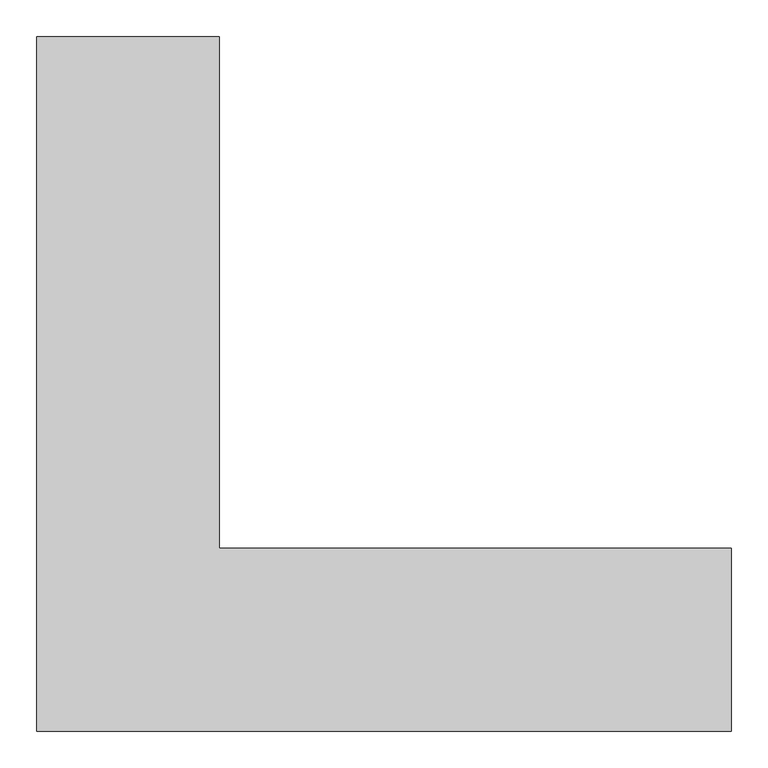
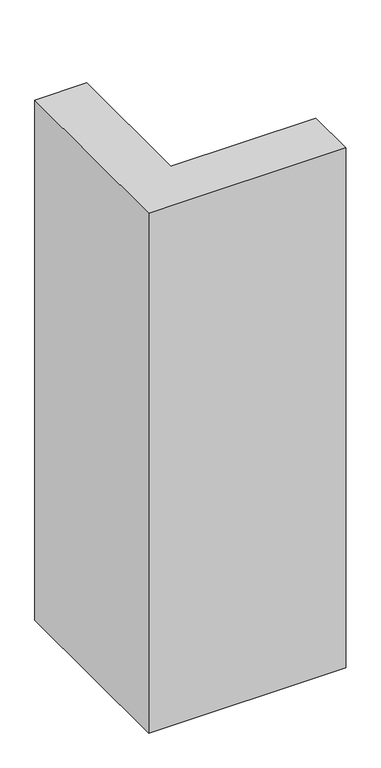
"""IFC4 building model written with IfcOpenShell, lengths in millimetres: column geometry, Columna Estructural Ele : ECO_Ele 95x95x25."""

from ifc_helpers import new_model, si_unit, frame, origin, place, context, project, spatial, polyline, outline, extrude, source, transform, mapped, element, save


def column_dfa84617(model_context):
    return source(origin(), model_context, "Body", "SweptSolid", [
        extrude(outline(polyline([(125.0, 825.0), (125.0, 125.0), (825.0, 125.0), (825.0, -125.0), (-125.0, -125.0), (-125.0, 825.0), (125.0, 825.0)])), frame((0.0, 0.0, 2750.0), z_axis=(0.0, 0.0, 1.0), x_axis=(1.0, 0.0, 0.0)), (0.0, 0.0, 1.0), 2650.0),
    ])


if __name__ == "__main__":
    model = new_model("IFC4")
    model_context = context("Model", 3, world=origin())
    ifc_project = project(units=[si_unit("LENGTHUNIT", "METRE", prefix="MILLI")], contexts=[model_context])
    site = spatial("IfcSite", under=ifc_project)
    building = spatial("IfcBuilding", under=site)
    placement = place(None, origin())
    column_shape = column_dfa84617(model_context)
    element("IfcColumn", 1, ObjectType="Columna Estructural Ele : ECO_Ele 95x95x25", at=placement, inside=building, context=model_context, shape_type="MappedRepresentation", body=[
        mapped(column_shape, transform((0.0, 0.0, 0.0), x_axis=(1.0, 0.0, 0.0), y_axis=(0.0, 1.0, 0.0), z_axis=(0.0, 0.0, 1.0))),
    ])
    save(model, "model.ifc")
